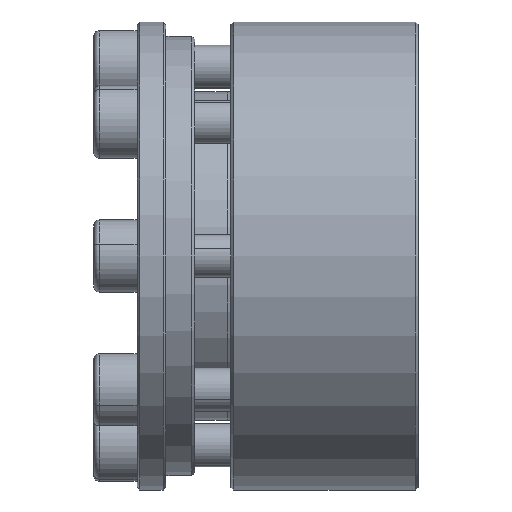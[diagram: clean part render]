
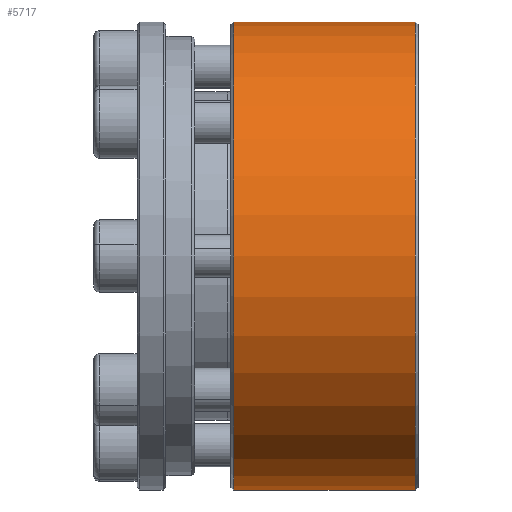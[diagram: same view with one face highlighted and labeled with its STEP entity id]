
A CAD part, front view. The second image highlights one B-rep face of the part: STEP entity #5717.
In plain terms, the highlighted cylindrical face has radius 32.46 mm (diameter 64.92 mm), a partial arc.
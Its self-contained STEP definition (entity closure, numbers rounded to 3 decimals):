
#73 = DIRECTION ( 'NONE',  ( 0., 0., -1. ) ) ;
#93 = FACE_OUTER_BOUND ( 'NONE', #7386, .T. ) ;
#111 = CARTESIAN_POINT ( 'NONE',  ( -92.766, 26.04, 32.46 ) ) ;
#310 = VERTEX_POINT ( 'NONE', #1936 ) ;
#496 = EDGE_CURVE ( 'NONE', #8277, #2703, #6230, .T. ) ;
#935 = DIRECTION ( 'NONE',  ( 0., 0., 1. ) ) ;
#1499 = VECTOR ( 'NONE', #1977, 1000. ) ;
#1874 = VECTOR ( 'NONE', #2826, 1000. ) ;
#1895 = CARTESIAN_POINT ( 'NONE',  ( -67.166, 26.04, 0. ) ) ;
#1936 = CARTESIAN_POINT ( 'NONE',  ( -92.366, 26.04, -32.46 ) ) ;
#1977 = DIRECTION ( 'NONE',  ( -1., 0., 0. ) ) ;
#2703 = VERTEX_POINT ( 'NONE', #5736 ) ;
#2751 = AXIS2_PLACEMENT_3D ( 'NONE', #1895, #4619, #7359 ) ;
#2826 = DIRECTION ( 'NONE',  ( -1., 0., 0. ) ) ;
#2854 = DIRECTION ( 'NONE',  ( -1., 0., 0. ) ) ;
#2945 = CARTESIAN_POINT ( 'NONE',  ( -92.766, 26.04, 0. ) ) ;
#3210 = EDGE_CURVE ( 'NONE', #5663, #310, #5995, .T. ) ;
#3474 = CARTESIAN_POINT ( 'NONE',  ( -67.166, 26.04, -32.46 ) ) ;
#4020 = ORIENTED_EDGE ( 'NONE', *, *, #496, .T. ) ;
#4619 = DIRECTION ( 'NONE',  ( -1., 0., 0. ) ) ;
#5368 = ORIENTED_EDGE ( 'NONE', *, *, #7810, .T. ) ;
#5538 = CYLINDRICAL_SURFACE ( 'NONE', #7489, 32.46 ) ;
#5614 = CIRCLE ( 'NONE', #2751, 32.46 ) ;
#5663 = VERTEX_POINT ( 'NONE', #3474 ) ;
#5717 = ADVANCED_FACE ( 'NONE', ( #93 ), #5538, .T. ) ;
#5736 = CARTESIAN_POINT ( 'NONE',  ( -92.366, 26.04, 32.46 ) ) ;
#5837 = AXIS2_PLACEMENT_3D ( 'NONE', #6236, #8254, #73 ) ;
#5995 = LINE ( 'NONE', #8685, #1499 ) ;
#6230 = LINE ( 'NONE', #111, #1874 ) ;
#6236 = CARTESIAN_POINT ( 'NONE',  ( -92.366, 26.04, 0. ) ) ;
#6379 = EDGE_CURVE ( 'NONE', #5663, #8277, #5614, .T. ) ;
#6414 = CIRCLE ( 'NONE', #5837, 32.46 ) ;
#7359 = DIRECTION ( 'NONE',  ( 0., 0., 1. ) ) ;
#7386 = EDGE_LOOP ( 'NONE', ( #7421, #8048, #4020, #5368 ) ) ;
#7421 = ORIENTED_EDGE ( 'NONE', *, *, #3210, .F. ) ;
#7489 = AXIS2_PLACEMENT_3D ( 'NONE', #2945, #2854, #935 ) ;
#7810 = EDGE_CURVE ( 'NONE', #2703, #310, #6414, .T. ) ;
#8048 = ORIENTED_EDGE ( 'NONE', *, *, #6379, .T. ) ;
#8254 = DIRECTION ( 'NONE',  ( 1., 0., 0. ) ) ;
#8277 = VERTEX_POINT ( 'NONE', #8330 ) ;
#8330 = CARTESIAN_POINT ( 'NONE',  ( -67.166, 26.04, 32.46 ) ) ;
#8685 = CARTESIAN_POINT ( 'NONE',  ( -92.766, 26.04, -32.46 ) ) ;
